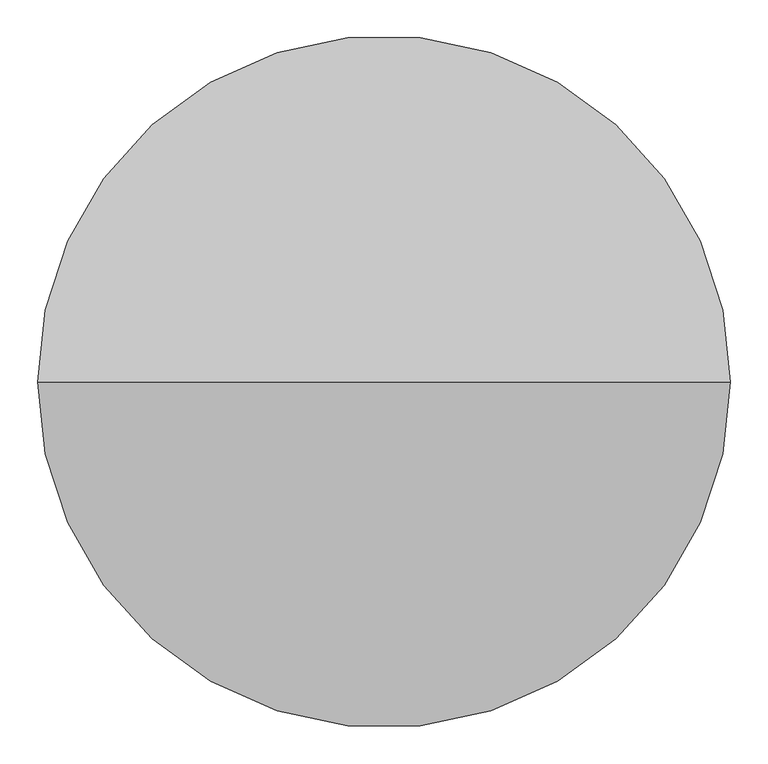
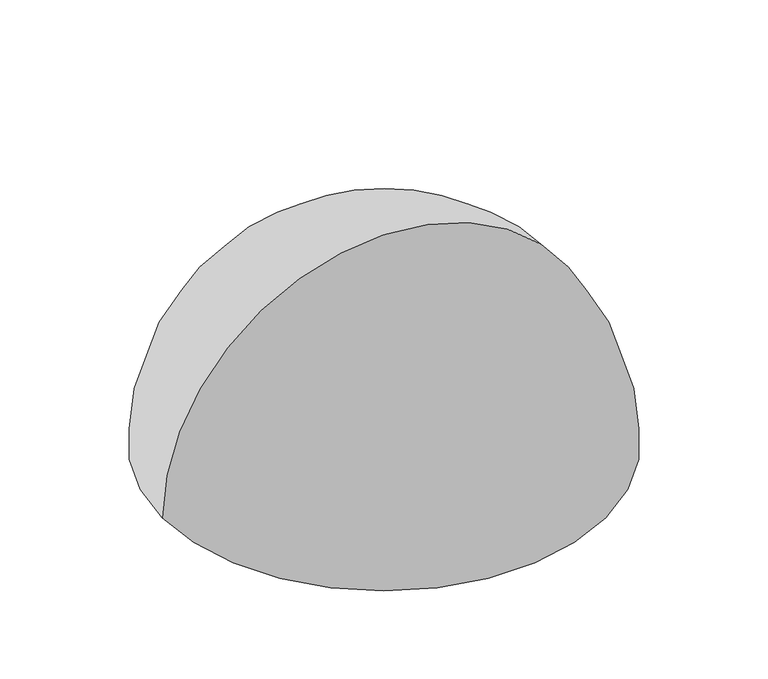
"""IFC4 building model written with IfcOpenShell, lengths in millimetres: geographic element geometry, Shubbery : Shubbery."""

from ifc_helpers import new_model, si_unit, point, frame, origin, place, context, project, spatial, circle_curve, ellipse_curve, trimmed, source, transform, mapped, element, save
from ifc_brep_helpers import plane_surface, revolved_surface, advanced_brep


def geographic_element_e8c3bac9(model_context):
    return source(origin(), model_context, "Body", "AdvancedBrep", [
        advanced_brep(
        [(-457.2, 0.0, 0.0), (457.2, 0.0, 0.0), (0.0, 0.0, 0.0), (0.0, 0.0, 457.2)],
        [
            (0, 1, circle_curve(frame((0.0, 0.0, 0.0), z_axis=(0.0, 0.0, -1.0), x_axis=(1.0, 0.0, 0.0)), 457.2)),
            (1, 2),
            (2, 0),
            (1, 0, circle_curve(frame((0.0, 0.0, 0.0), z_axis=(0.0, 0.0, -1.0), x_axis=(1.0, 0.0, 0.0)), 457.2)),
            (3, 1, circle_curve(frame((0.0, 0.0, 0.0), z_axis=(0.0, 1.0, 0.0), x_axis=(1.0, 0.0, 0.0)), 457.2)),
            (0, 3, circle_curve(frame((0.0, 0.0, 0.0), z_axis=(0.0, 1.0, 0.0), x_axis=(-1.0, 0.0, 0.0)), 457.2)),
        ],
        [
            plane_surface(frame((0.0, 0.0, 0.0), z_axis=(0.0, 0.0, -1.0), x_axis=(1.0, 0.0, 0.0))),
            revolved_surface(trimmed(ellipse_curve(frame((0.0, 0.0, 0.0), z_axis=(0.0, -1.0, 0.0), x_axis=(1.0, 0.0, 0.0)), 457.2, 457.2), [point((457.2, 0.0, 0.0))], [point((0.0, 0.0, 457.2))], True, "CARTESIAN"), (0.0, 0.0, 0.0), (0.0, 0.0, 1.0)),
        ],
        [
            (0, [[1, 2, 3]]),
            (0, [[4, -3, -2]]),
            (1, [[5, -1, 6]]),
            (1, [[-6, -4, -5]]),
        ],
    ),
    ])


if __name__ == "__main__":
    model = new_model("IFC4")
    model_context = context("Model", 3, world=origin())
    ifc_project = project(units=[si_unit("LENGTHUNIT", "METRE", prefix="MILLI")], contexts=[model_context])
    site = spatial("IfcSite", under=ifc_project)
    building = spatial("IfcBuilding", under=site)
    placement = place(None, origin())
    geographic_element_shape = geographic_element_e8c3bac9(model_context)
    element("IfcGeographicElement", 1, ObjectType="Shubbery : Shubbery", at=placement, inside=building, context=model_context, shape_type="MappedRepresentation", body=[
        mapped(geographic_element_shape, transform((0.0, 0.0, 0.0), x_axis=(1.0, 0.0, 0.0), y_axis=(0.0, 1.0, 0.0), z_axis=(0.0, 0.0, 1.0))),
    ])
    save(model, "model.ifc")
